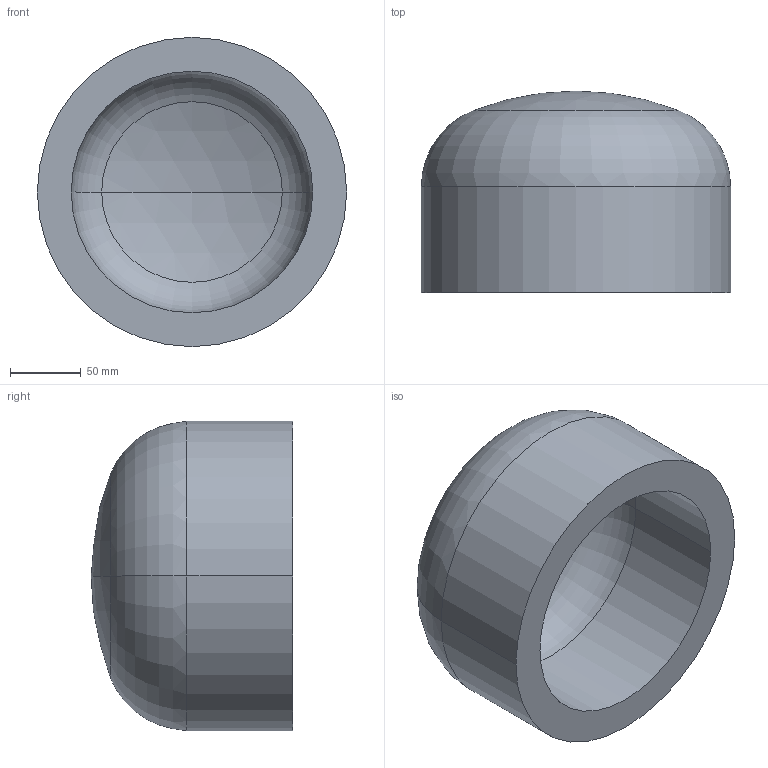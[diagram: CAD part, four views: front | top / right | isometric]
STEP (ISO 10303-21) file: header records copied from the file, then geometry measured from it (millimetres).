
FILE_DESCRIPTION (( 'STEP AP203' ), '1' );
FILE_NAME ('DIN 28013 Korbbogenform_-_Boden DIN 28013 - 219,1 x 75 - I - s=24.step', '2016-07-01T07:42:44', ( '' ), ( '' ), 'SwSTEP 2.0', 'SolidWorks 2013', '' );
FILE_SCHEMA (( 'CONFIG_CONTROL_DESIGN' ));
Length unit declared in the file: millimetre
Products named in the file (1): DIN 28013 Korbbogenform_-_Boden DIN 28013 - 219,1 x 75 - I - s=24
Bounding box: 219.1 x 142.76 x 219.1 mm (x, y, z)
Volume: 2200411 mm3; surface area: 199284.1 mm2
Topology: 1 solids, 1 shells, 13 faces, 24 edges, 14 vertices
Faces by surface type: torus 4, cylinder 4, sphere 4, plane 1
Entity records: 407 total; most frequent: DIRECTION 72, CARTESIAN_POINT 52, ORIENTED_EDGE 48, AXIS2_PLACEMENT_3D 34, EDGE_CURVE 24, CIRCLE 20, VERTEX_POINT 14, EDGE_LOOP 14
